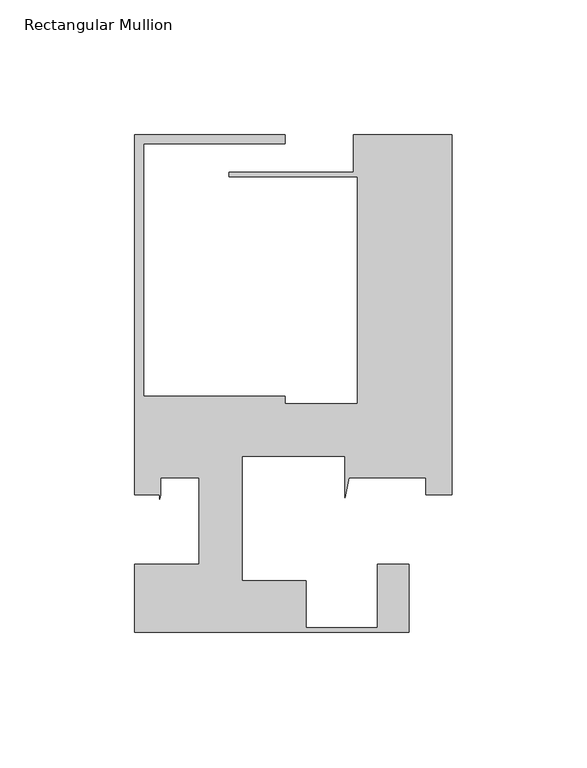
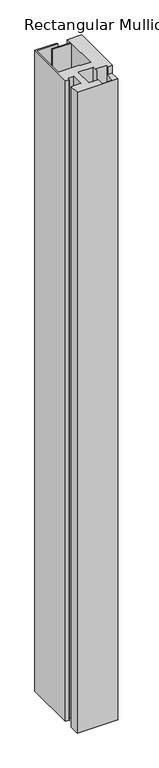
"""IFC4 building model written with IfcOpenShell, lengths in millimetres: member geometry, Rectangular Mullion : Captured Chicken Head Stack."""

from ifc_helpers import new_model, si_unit, frame, origin, place, context, project, spatial, polyline, outline, extrude, source, transform, mapped, element, save


def rectangular_mullion_64223f13(model_context):
    return source(origin(), model_context, "Body", "SweptSolid", [
        extrude(outline(polyline([(-61.8998316, 114.30254), (-61.8998316, 111.1275493), (-114.2999537, 111.1275493), (-114.2999537, 17.4529386), (-61.8998316, 17.4529386), (-61.8998316, 14.7454592), (-34.9249745, 14.7454592), (-34.9249745, 98.8645), (-82.5631556, 98.8645), (-82.5631556, 100.4392965), (-36.5130248, 100.4392965), (-36.5130248, 114.30254), (0.0, 114.30254), (0.0, -19.0105392), (-9.5249909, -19.0105392), (-9.5249909, -12.7), (-38.1999639, -12.7), (-39.6874745, -19.9856123), (-39.6874745, -4.7624076), (-77.7875, -4.7624076), (-77.7875, -50.8), (-53.9750123, -50.8), (-53.9750123, -68.2751632), (-27.6414131, -68.2751632), (-27.6414131, -44.7665099), (-15.8431035, -44.7665099), (-15.8431035, -69.8499672), (-117.4750025, -69.8499672), (-117.4750025, -44.7665099), (-93.6624995, -44.7665099), (-93.6624995, -12.699996), (-107.9500091, -12.699996), (-107.9500091, -19.05), (-108.3471992, -20.5435829), (-108.3471992, -18.9450334), (-117.475, -18.9450334), (-117.475, 114.30254), (-61.8998316, 114.30254)])), frame((0.0, 0.0, -1704.9898159), z_axis=(0.0, 0.0, 1.0), x_axis=(1.0, 0.0, 0.0)), (0.0, 0.0, 1.0), 1704.9898159),
    ])


if __name__ == "__main__":
    model = new_model("IFC4")
    model_context = context("Model", 3, world=origin())
    ifc_project = project(units=[si_unit("LENGTHUNIT", "METRE", prefix="MILLI")], contexts=[model_context])
    site = spatial("IfcSite", under=ifc_project)
    building = spatial("IfcBuilding", under=site)
    placement = place(None, origin())
    rectangular_mullion_shape = rectangular_mullion_64223f13(model_context)
    element("IfcMember", 1, ObjectType="Rectangular Mullion : Captured Chicken Head Stack", at=placement, inside=building, context=model_context, shape_type="MappedRepresentation", body=[
        mapped(rectangular_mullion_shape, transform((0.0, 0.0, 0.0), x_axis=(1.0, 0.0, 0.0), y_axis=(0.0, 1.0, 0.0), z_axis=(0.0, 0.0, 1.0))),
    ])
    save(model, "model.ifc")
